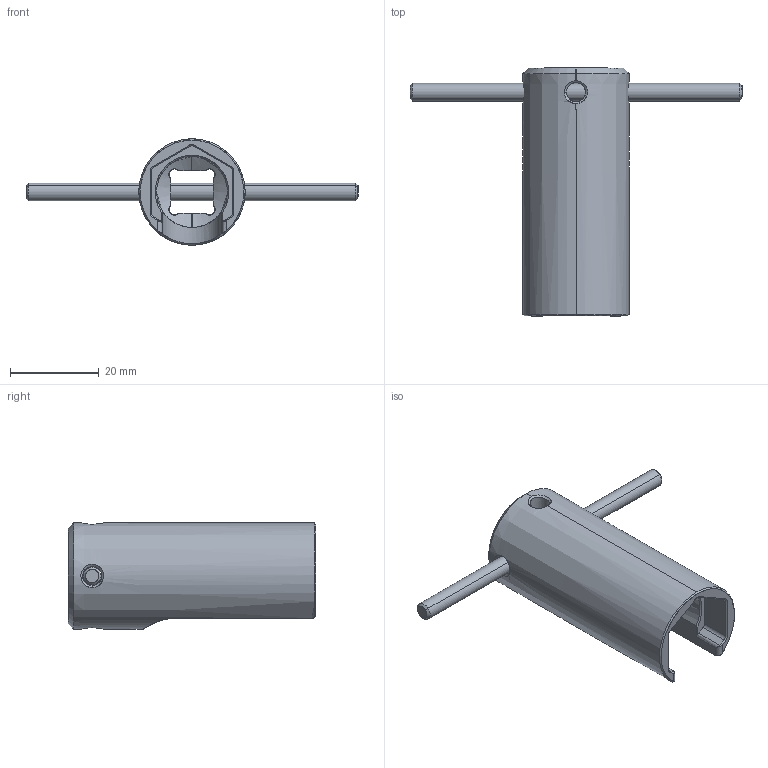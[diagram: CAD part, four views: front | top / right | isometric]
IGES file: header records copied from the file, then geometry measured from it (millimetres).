
Start section: SolidWorks IGES file using analytic representation for surfaces
Global section: file name: C:\Users\emill\Blue Robotics Dropbox\Eldin Miller-Stead\BR-Engineering\PROJECTS\WLP\MODELS\RELEASES\PUBLIC\WLP-18MM-PLUG-WRENCH\WLP-18MM-PLUG-WRENCH-PUBLIC.igs; native system: SolidWorks 2020; preprocessor: SolidWorks 2020; author: emill; date: 210812.170445; units: foot
Bounding box: 75 x 56 x 24 mm (x, y, z)
Surface area: 7973 mm2 (no closed solid volume)
Topology: 0 solids, 0 shells, 86 faces, 1212 edges, 1212 vertices
Faces by surface type: revolution 48, bspline 38
